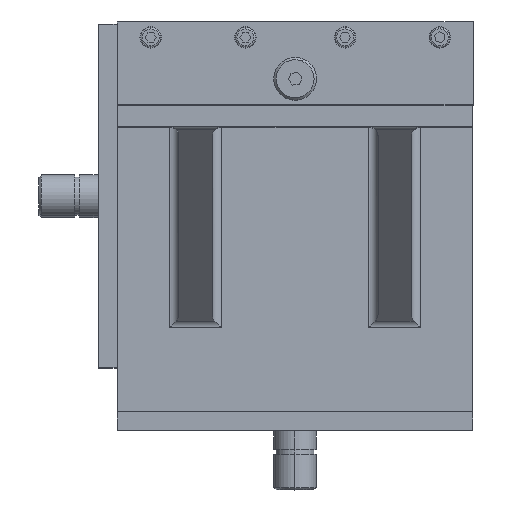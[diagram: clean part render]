
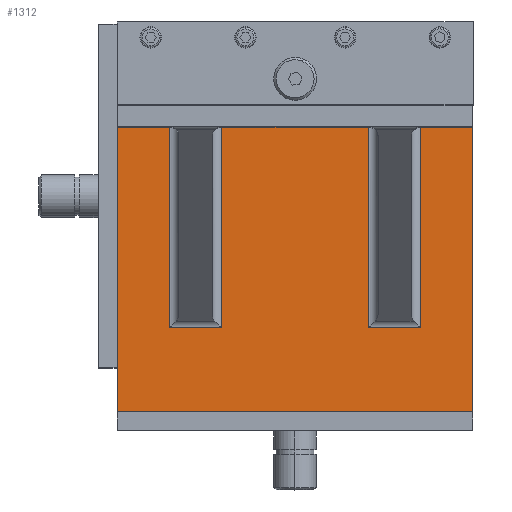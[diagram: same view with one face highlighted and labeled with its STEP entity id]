
A CAD part, top view. The second image highlights one B-rep face of the part: STEP entity #1312.
In plain terms, the highlighted planar face has unit normal (0, 0, 1).
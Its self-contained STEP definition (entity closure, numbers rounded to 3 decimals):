
#1312=ADVANCED_FACE('',(#2974),#2975,.F.);
#2974=FACE_OUTER_BOUND('',#5230,.T.);
#2975=PLANE('',#5231);
#5230=EDGE_LOOP('',(#8430,#8431,#8432,#8433,#8434,#8435,#8436,#8437,#8438,#8439,#8440,#8441));
#5231=AXIS2_PLACEMENT_3D('',#8442,#8443,#8444);
#8430=ORIENTED_EDGE('',*,*,#12927,.T.);
#8431=ORIENTED_EDGE('',*,*,#12952,.T.);
#8432=ORIENTED_EDGE('',*,*,#12954,.T.);
#8433=ORIENTED_EDGE('',*,*,#12944,.T.);
#8434=ORIENTED_EDGE('',*,*,#12935,.T.);
#8435=ORIENTED_EDGE('',*,*,#12980,.T.);
#8436=ORIENTED_EDGE('',*,*,#12981,.T.);
#8437=ORIENTED_EDGE('',*,*,#12982,.T.);
#8438=ORIENTED_EDGE('',*,*,#12931,.T.);
#8439=ORIENTED_EDGE('',*,*,#12960,.F.);
#8440=ORIENTED_EDGE('',*,*,#12983,.F.);
#8441=ORIENTED_EDGE('',*,*,#12984,.T.);
#8442=CARTESIAN_POINT('',(-150.052,-129.1,-138.5));
#8443=DIRECTION('',(0.,0.,-1.0));
#8444=DIRECTION('',(-1.0,0.0,0.));
#12927=EDGE_CURVE('',#15389,#15387,#15390,.T.);
#12931=EDGE_CURVE('',#15397,#15395,#15398,.T.);
#12935=EDGE_CURVE('',#15405,#15403,#15406,.T.);
#12944=EDGE_CURVE('',#15417,#15405,#15418,.T.);
#12952=EDGE_CURVE('',#15387,#15425,#15427,.T.);
#12954=EDGE_CURVE('',#15425,#15417,#15429,.T.);
#12960=EDGE_CURVE('',#15437,#15395,#15439,.T.);
#12980=EDGE_CURVE('',#15403,#15470,#15471,.T.);
#12981=EDGE_CURVE('',#15470,#15472,#15473,.T.);
#12982=EDGE_CURVE('',#15472,#15397,#15474,.T.);
#12983=EDGE_CURVE('',#15475,#15437,#15476,.T.);
#12984=EDGE_CURVE('',#15475,#15389,#15477,.T.);
#15387=VERTEX_POINT('',#19460);
#15389=VERTEX_POINT('',#19463);
#15390=LINE('',#19464,#19465);
#15395=VERTEX_POINT('',#19472);
#15397=VERTEX_POINT('',#19475);
#15398=LINE('',#19476,#19477);
#15403=VERTEX_POINT('',#19484);
#15405=VERTEX_POINT('',#19487);
#15406=LINE('',#19488,#19489);
#15417=VERTEX_POINT('',#19523);
#15418=LINE('',#19524,#19525);
#15425=VERTEX_POINT('',#19543);
#15427=LINE('',#19554,#19555);
#15429=LINE('',#19557,#19558);
#15437=VERTEX_POINT('',#19569);
#15439=LINE('',#19572,#19573);
#15470=VERTEX_POINT('',#19650);
#15471=LINE('',#19651,#19652);
#15472=VERTEX_POINT('',#19653);
#15473=LINE('',#19654,#19655);
#15474=LINE('',#19656,#19657);
#15475=VERTEX_POINT('',#19658);
#15476=LINE('',#19659,#19660);
#15477=LINE('',#19661,#19662);
#19460=CARTESIAN_POINT('',(-22.052,-9.1,-138.5));
#19463=CARTESIAN_POINT('',(-0.052,-9.1,-138.5));
#19464=CARTESIAN_POINT('',(-0.052,-9.1,-138.5));
#19465=VECTOR('',#23380,1000.0);
#19472=CARTESIAN_POINT('',(-150.052,-9.1,-138.5));
#19475=CARTESIAN_POINT('',(-128.052,-9.1,-138.5));
#19476=CARTESIAN_POINT('',(-0.052,-9.1,-138.5));
#19477=VECTOR('',#23384,1000.0);
#19484=CARTESIAN_POINT('',(-106.052,-9.1,-138.5));
#19487=CARTESIAN_POINT('',(-44.052,-9.1,-138.5));
#19488=CARTESIAN_POINT('',(-0.052,-9.1,-138.5));
#19489=VECTOR('',#23388,1000.0);
#19523=CARTESIAN_POINT('',(-44.052,-93.757,-138.5));
#19524=CARTESIAN_POINT('',(-44.052,-129.1,-138.5));
#19525=VECTOR('',#23392,1000.0);
#19543=CARTESIAN_POINT('',(-22.052,-93.757,-138.5));
#19554=CARTESIAN_POINT('',(-22.052,-129.1,-138.5));
#19555=VECTOR('',#23395,1000.0);
#19557=CARTESIAN_POINT('',(-40.052,-93.757,-138.5));
#19558=VECTOR('',#23396,1000.0);
#19569=CARTESIAN_POINT('',(-150.052,-129.1,-138.5));
#19572=CARTESIAN_POINT('',(-150.052,-129.1,-138.5));
#19573=VECTOR('',#23401,1000.0);
#19650=CARTESIAN_POINT('',(-106.052,-93.757,-138.5));
#19651=CARTESIAN_POINT('',(-106.052,-129.1,-138.5));
#19652=VECTOR('',#23415,1000.0);
#19653=CARTESIAN_POINT('',(-128.052,-93.757,-138.5));
#19654=CARTESIAN_POINT('',(-150.052,-93.757,-138.5));
#19655=VECTOR('',#23416,1000.0);
#19656=CARTESIAN_POINT('',(-128.052,-129.1,-138.5));
#19657=VECTOR('',#23417,1000.0);
#19658=CARTESIAN_POINT('',(-0.052,-129.1,-138.5));
#19659=CARTESIAN_POINT('',(-150.052,-129.1,-138.5));
#19660=VECTOR('',#23418,1000.0);
#19661=CARTESIAN_POINT('',(-0.052,-129.1,-138.5));
#19662=VECTOR('',#23419,1000.0);
#23380=DIRECTION('',(-1.0,0.,0.));
#23384=DIRECTION('',(-1.0,0.,0.));
#23388=DIRECTION('',(-1.0,0.,0.));
#23392=DIRECTION('',(0.,1.0,0.));
#23395=DIRECTION('',(0.,-1.0,0.));
#23396=DIRECTION('',(-1.0,0.,0.));
#23401=DIRECTION('',(0.,1.0,0.));
#23415=DIRECTION('',(0.,-1.0,0.));
#23416=DIRECTION('',(-1.0,0.,0.));
#23417=DIRECTION('',(0.,1.0,0.));
#23418=DIRECTION('',(-1.0,0.,0.));
#23419=DIRECTION('',(0.,1.0,0.));
